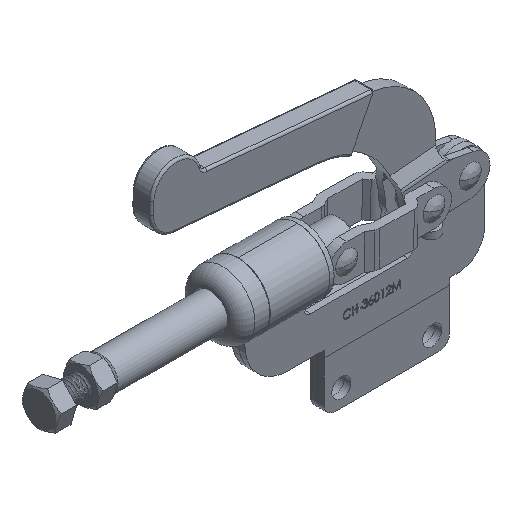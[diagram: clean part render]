
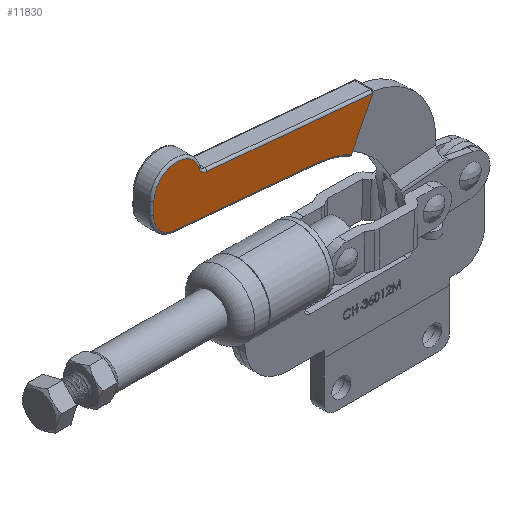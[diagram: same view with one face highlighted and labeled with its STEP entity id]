
A CAD part, isometric view. The second image highlights one B-rep face of the part: STEP entity #11830.
In plain terms, the highlighted planar face has unit normal (0, -1, 0) as drawn and (0, 0, 1) by its records, which use the part's own axes.
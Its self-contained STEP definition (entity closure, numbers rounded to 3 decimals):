
#643=PLANE('',#12702);
#1579=LINE('',#26726,#2500);
#1595=LINE('',#26794,#2516);
#1596=LINE('',#26800,#2517);
#1597=LINE('',#26804,#2518);
#2500=VECTOR('',#14643,1000.);
#2516=VECTOR('',#14703,1000.);
#2517=VECTOR('',#14708,1000.);
#2518=VECTOR('',#14711,1000.);
#3174=FACE_OUTER_BOUND('',#3858,.T.);
#3858=EDGE_LOOP('',(#10383,#10384,#10385,#10386,#10387,#10388,#10389,#10390,
#10391));
#4723=CIRCLE('',#12703,34.);
#4724=CIRCLE('',#12704,4.);
#4725=CIRCLE('',#12705,10.5);
#4726=CIRCLE('',#12706,10.5);
#4727=CIRCLE('',#12707,41.1);
#5733=VERTEX_POINT('',#26714);
#5734=VERTEX_POINT('',#26725);
#5753=VERTEX_POINT('',#26791);
#5754=VERTEX_POINT('',#26793);
#5755=VERTEX_POINT('',#26795);
#5756=VERTEX_POINT('',#26797);
#5757=VERTEX_POINT('',#26799);
#5758=VERTEX_POINT('',#26801);
#5759=VERTEX_POINT('',#26803);
#7336=EDGE_CURVE('',#5734,#5733,#1579,.T.);
#7365=EDGE_CURVE('',#5733,#5753,#4723,.T.);
#7366=EDGE_CURVE('',#5753,#5754,#1595,.T.);
#7367=EDGE_CURVE('',#5754,#5755,#4724,.T.);
#7368=EDGE_CURVE('',#5755,#5756,#4725,.T.);
#7369=EDGE_CURVE('',#5756,#5757,#1596,.T.);
#7370=EDGE_CURVE('',#5757,#5758,#4726,.T.);
#7371=EDGE_CURVE('',#5758,#5759,#1597,.T.);
#7372=EDGE_CURVE('',#5759,#5734,#4727,.T.);
#10383=ORIENTED_EDGE('',*,*,#7336,.T.);
#10384=ORIENTED_EDGE('',*,*,#7365,.T.);
#10385=ORIENTED_EDGE('',*,*,#7366,.T.);
#10386=ORIENTED_EDGE('',*,*,#7367,.T.);
#10387=ORIENTED_EDGE('',*,*,#7368,.T.);
#10388=ORIENTED_EDGE('',*,*,#7369,.T.);
#10389=ORIENTED_EDGE('',*,*,#7370,.T.);
#10390=ORIENTED_EDGE('',*,*,#7371,.T.);
#10391=ORIENTED_EDGE('',*,*,#7372,.T.);
#11830=ADVANCED_FACE('',(#3174),#643,.T.);
#12702=AXIS2_PLACEMENT_3D('',#26790,#14699,#14700);
#12703=AXIS2_PLACEMENT_3D('',#26792,#14701,#14702);
#12704=AXIS2_PLACEMENT_3D('',#26796,#14704,#14705);
#12705=AXIS2_PLACEMENT_3D('',#26798,#14706,#14707);
#12706=AXIS2_PLACEMENT_3D('',#26802,#14709,#14710);
#12707=AXIS2_PLACEMENT_3D('',#26805,#14712,#14713);
#14643=DIRECTION('',(0.429,0.903,0.));
#14699=DIRECTION('center_axis',(0.,0.,1.));
#14700=DIRECTION('ref_axis',(1.,0.,0.));
#14701=DIRECTION('center_axis',(0.,0.,1.));
#14702=DIRECTION('ref_axis',(1.,0.,0.));
#14703=DIRECTION('',(-0.998,0.067,0.));
#14704=DIRECTION('center_axis',(0.,0.,-1.));
#14705=DIRECTION('ref_axis',(1.,0.,0.));
#14706=DIRECTION('center_axis',(0.,0.,1.));
#14707=DIRECTION('ref_axis',(1.,0.,0.));
#14708=DIRECTION('',(0.,-1.,0.));
#14709=DIRECTION('center_axis',(0.,0.,1.));
#14710=DIRECTION('ref_axis',(1.,0.,0.));
#14711=DIRECTION('',(0.998,-0.066,0.));
#14712=DIRECTION('center_axis',(0.,0.,-1.));
#14713=DIRECTION('ref_axis',(1.,0.,0.));
#26714=CARTESIAN_POINT('',(-23.633,53.41,4.5));
#26725=CARTESIAN_POINT('',(-32.852,34.019,4.5));
#26726=CARTESIAN_POINT('',(-23.173,54.378,4.5));
#26790=CARTESIAN_POINT('Origin',(-98.964,62.461,4.5));
#26791=CARTESIAN_POINT('',(-23.83,53.424,4.5));
#26792=CARTESIAN_POINT('Origin',(-26.1,19.5,4.5));
#26793=CARTESIAN_POINT('',(-99.231,58.47,4.5));
#26794=CARTESIAN_POINT('',(-99.231,58.47,4.5));
#26795=CARTESIAN_POINT('',(-102.792,61.301,4.5));
#26796=CARTESIAN_POINT('Origin',(-98.964,62.461,4.5));
#26797=CARTESIAN_POINT('',(-123.34,58.254,4.5));
#26798=CARTESIAN_POINT('Origin',(-112.84,58.254,4.5));
#26799=CARTESIAN_POINT('',(-123.34,52.754,4.5));
#26800=CARTESIAN_POINT('',(-123.34,52.754,4.5));
#26801=CARTESIAN_POINT('',(-113.536,42.278,4.5));
#26802=CARTESIAN_POINT('Origin',(-112.84,52.754,4.5));
#26803=CARTESIAN_POINT('',(-47.775,37.91,4.5));
#26804=CARTESIAN_POINT('',(-47.775,37.91,4.5));
#26805=CARTESIAN_POINT('Origin',(-50.499,-3.1,4.5));
